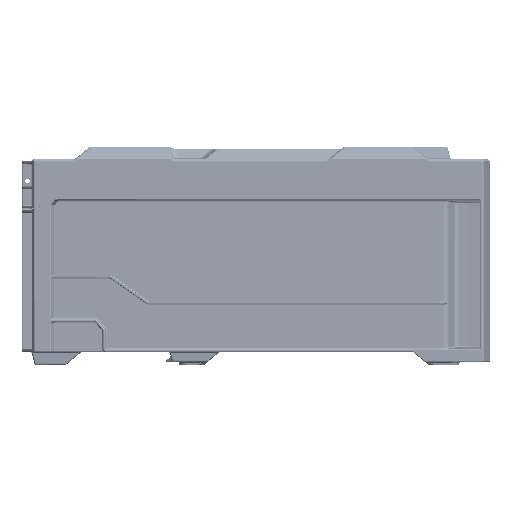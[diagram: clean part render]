
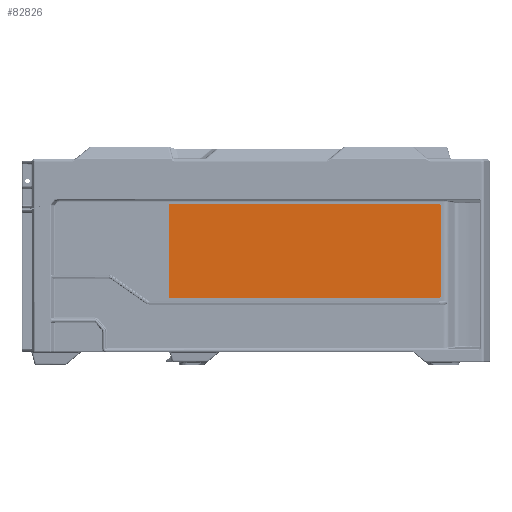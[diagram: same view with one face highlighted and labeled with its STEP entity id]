
A CAD part, left-side view. The second image highlights one B-rep face of the part: STEP entity #82826.
In plain terms, the highlighted planar face has unit normal (-1, 0, 0).
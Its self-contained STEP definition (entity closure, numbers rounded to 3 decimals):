
#62397=CIRCLE('',#286358,0.5);
#62398=CIRCLE('',#286359,0.5);
#82826=ADVANCED_FACE('',(#99695),#87433,.T.);
#87433=PLANE('',#286360);
#99695=FACE_OUTER_BOUND('',#113939,.T.);
#113939=EDGE_LOOP('',(#179878,#179879,#179880,#179881,#179882,#179883));
#179878=ORIENTED_EDGE('',*,*,#237878,.T.);
#179879=ORIENTED_EDGE('',*,*,#237884,.T.);
#179880=ORIENTED_EDGE('',*,*,#237881,.T.);
#179881=ORIENTED_EDGE('',*,*,#237883,.T.);
#179882=ORIENTED_EDGE('',*,*,#237874,.T.);
#179883=ORIENTED_EDGE('',*,*,#237885,.T.);
#206281=VERTEX_POINT('',#521899);
#206282=VERTEX_POINT('',#521900);
#206283=VERTEX_POINT('',#521905);
#206284=VERTEX_POINT('',#521907);
#206285=VERTEX_POINT('',#521911);
#206286=VERTEX_POINT('',#521913);
#237874=EDGE_CURVE('',#206281,#206282,#252915,.T.);
#237878=EDGE_CURVE('',#206284,#206283,#252919,.T.);
#237881=EDGE_CURVE('',#206286,#206285,#252922,.T.);
#237883=EDGE_CURVE('',#206285,#206281,#252924,.T.);
#237884=EDGE_CURVE('',#206283,#206286,#62397,.T.);
#237885=EDGE_CURVE('',#206282,#206284,#62398,.T.);
#252915=LINE('',#521898,#265183);
#252919=LINE('',#521906,#265187);
#252922=LINE('',#521912,#265190);
#252924=LINE('',#521916,#265192);
#265183=VECTOR('',#340039,1.);
#265187=VECTOR('',#340045,1.);
#265190=VECTOR('',#340050,1.);
#265192=VECTOR('',#340054,1.);
#286358=AXIS2_PLACEMENT_3D('',#521918,#340057,#340058);
#286359=AXIS2_PLACEMENT_3D('',#521919,#340059,#340060);
#286360=AXIS2_PLACEMENT_3D('',#521920,#340061,#340062);
#340039=DIRECTION('',(0.,-1.,0.));
#340045=DIRECTION('',(0.,0.,1.));
#340050=DIRECTION('',(0.,1.,0.));
#340054=DIRECTION('',(0.,0.,-1.));
#340057=DIRECTION('',(-1.,0.,0.));
#340058=DIRECTION('',(0.,0.,-1.));
#340059=DIRECTION('',(-1.,0.,0.));
#340060=DIRECTION('',(0.,0.,-1.));
#340061=DIRECTION('',(-1.,0.,0.));
#340062=DIRECTION('',(0.,0.,-1.));
#521898=CARTESIAN_POINT('',(-292.4,100.,-92.75));
#521899=CARTESIAN_POINT('',(-292.4,-24.416,-92.75));
#521900=CARTESIAN_POINT('',(-292.4,-253.916,-92.75));
#521905=CARTESIAN_POINT('',(-292.4,-254.416,-14.25));
#521906=CARTESIAN_POINT('',(-292.4,-254.416,0.));
#521907=CARTESIAN_POINT('',(-292.4,-254.416,-92.25));
#521911=CARTESIAN_POINT('',(-292.4,-24.416,-13.75));
#521912=CARTESIAN_POINT('',(-292.4,100.,-13.75));
#521913=CARTESIAN_POINT('',(-292.4,-253.916,-13.75));
#521916=CARTESIAN_POINT('',(-292.4,-24.416,0.));
#521918=CARTESIAN_POINT('',(-292.4,-253.916,-14.25));
#521919=CARTESIAN_POINT('',(-292.4,-253.916,-92.25));
#521920=CARTESIAN_POINT('',(-292.4,100.,0.));
